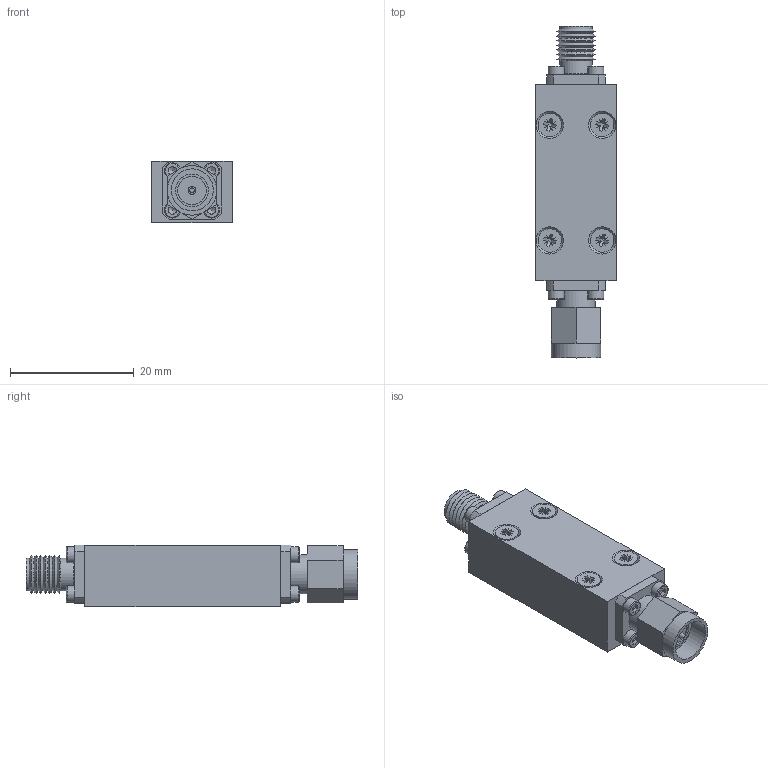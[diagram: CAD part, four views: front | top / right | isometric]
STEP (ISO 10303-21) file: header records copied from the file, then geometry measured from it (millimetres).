
FILE_DESCRIPTION(/* description */ ('Unknown'),/* implementation_level */ '2;1');
FILE_NAME(/* name */ 'DETI_MICROWAVE_LOWPASS_FILTER_011007_STEP',/* time_stamp */ '2021-06-01T12:05:27+02:00',/* author */ ('ALG'),/* organization */ ('DETI'),/* preprocessor_version */ 'ST-DEVELOPER v16.7',/* originating_system */ 'Solid Edge',/* authorisation */ 'Unknown');
FILE_SCHEMA (('AUTOMOTIVE_DESIGN {1 0 10303 214 3 1 1}'));
Length unit declared in the file: millimetre
Products named in the file (1): 800140 0A 1601A2
Bounding box: 13 x 53.7 x 10.02 mm (x, y, z)
Volume: 4914.4 mm3; surface area: 3235.7 mm2
Topology: 1 solids, 26 shells, 391 faces, 924 edges, 614 vertices
Faces by surface type: plane 273, cylinder 77, cone 28, torus 13
Full cylindrical faces by diameter (mm): 0.47 x1, 0.8 x1, 1.075 x8, 1.1 x1, 1.27 x4, 1.4 x8, 1.567 x6, 1.63 x2, 1.8 x8, 2 x4, 2.2 x4, 2.6 x8, 3.8 x4, 4.1 x2, 4.6 x2, 5.3 x3, 6.3 x1, 6.8 x1, 8 x1
Entity records: 12928 total; most frequent: CARTESIAN_POINT 1850, DIRECTION 1680, ORIENTED_EDGE 1504, EDGE_CURVE 752, AXIS2_PLACEMENT_3D 584, FACE_BOUND 564, VERTEX_POINT 562, EDGE_LOOP 554
